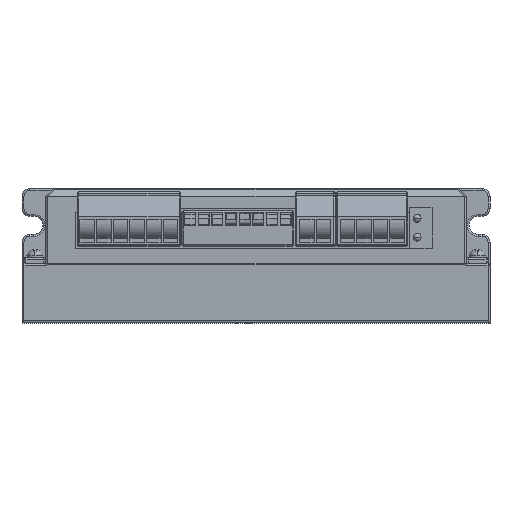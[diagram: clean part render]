
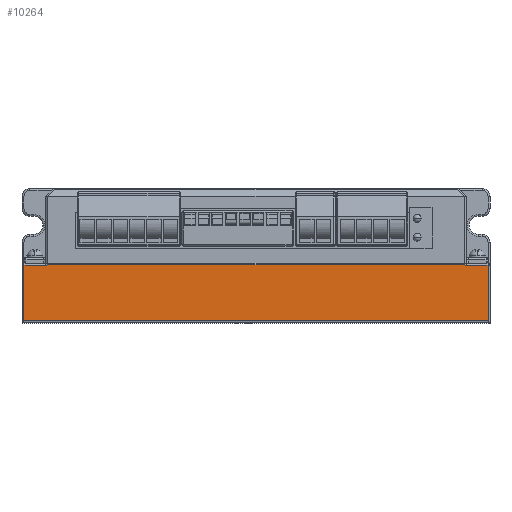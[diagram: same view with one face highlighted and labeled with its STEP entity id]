
A CAD part, top view. The second image highlights one B-rep face of the part: STEP entity #10264.
In plain terms, the highlighted planar face has unit normal (0, 0, 1).
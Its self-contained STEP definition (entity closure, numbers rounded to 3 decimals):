
#10264 = ADVANCED_FACE('',(#10265),#10345,.T.);
#10265 = FACE_BOUND('',#10266,.T.);
#10266 = EDGE_LOOP('',(#10267,#10277,#10285,#10300,#10308,#10323,#10331,
    #10339));
#10267 = ORIENTED_EDGE('',*,*,#10268,.T.);
#10268 = EDGE_CURVE('',#10269,#10271,#10273,.T.);
#10269 = VERTEX_POINT('',#10270);
#10270 = CARTESIAN_POINT('',(58.5,0.5,75.5));
#10271 = VERTEX_POINT('',#10272);
#10272 = CARTESIAN_POINT('',(58.5,14.5,75.5));
#10273 = LINE('',#10274,#10275);
#10274 = CARTESIAN_POINT('',(58.5,15.,75.5));
#10275 = VECTOR('',#10276,1.);
#10276 = DIRECTION('',(0.,1.,-0.));
#10277 = ORIENTED_EDGE('',*,*,#10278,.T.);
#10278 = EDGE_CURVE('',#10271,#10279,#10281,.T.);
#10279 = VERTEX_POINT('',#10280);
#10280 = CARTESIAN_POINT('',(52.99,14.5,75.5));
#10281 = LINE('',#10282,#10283);
#10282 = CARTESIAN_POINT('',(-58.5,14.5,75.5));
#10283 = VECTOR('',#10284,1.);
#10284 = DIRECTION('',(-1.,0.,0.));
#10285 = ORIENTED_EDGE('',*,*,#10286,.T.);
#10286 = EDGE_CURVE('',#10279,#10287,#10289,.T.);
#10287 = VERTEX_POINT('',#10288);
#10288 = CARTESIAN_POINT('',(52.5,14.7,75.5));
#10289 = B_SPLINE_CURVE_WITH_KNOTS('',3,(#10290,#10291,#10292,#10293,
    #10294,#10295,#10296,#10297,#10298,#10299),.UNSPECIFIED.,.F.,.F.,(4,
    2,2,2,4),(0.,0.,0.,0.
    ,0.001),.UNSPECIFIED.);
#10290 = CARTESIAN_POINT('',(52.99,14.5,75.5));
#10291 = CARTESIAN_POINT('',(52.899,14.5,75.5));
#10292 = CARTESIAN_POINT('',(52.811,14.524,75.5));
#10293 = CARTESIAN_POINT('',(52.692,14.587,75.5));
#10294 = CARTESIAN_POINT('',(52.655,14.612,75.5));
#10295 = CARTESIAN_POINT('',(52.6,14.652,75.5));
#10296 = CARTESIAN_POINT('',(52.582,14.665,75.5));
#10297 = CARTESIAN_POINT('',(52.544,14.689,75.5));
#10298 = CARTESIAN_POINT('',(52.523,14.7,75.5));
#10299 = CARTESIAN_POINT('',(52.5,14.7,75.5));
#10300 = ORIENTED_EDGE('',*,*,#10301,.T.);
#10301 = EDGE_CURVE('',#10287,#10302,#10304,.T.);
#10302 = VERTEX_POINT('',#10303);
#10303 = CARTESIAN_POINT('',(-52.5,14.7,75.5));
#10304 = LINE('',#10305,#10306);
#10305 = CARTESIAN_POINT('',(-58.5,14.7,75.5));
#10306 = VECTOR('',#10307,1.);
#10307 = DIRECTION('',(-1.,0.,-0.));
#10308 = ORIENTED_EDGE('',*,*,#10309,.T.);
#10309 = EDGE_CURVE('',#10302,#10310,#10312,.T.);
#10310 = VERTEX_POINT('',#10311);
#10311 = CARTESIAN_POINT('',(-52.99,14.5,75.5));
#10312 = B_SPLINE_CURVE_WITH_KNOTS('',3,(#10313,#10314,#10315,#10316,
    #10317,#10318,#10319,#10320,#10321,#10322),.UNSPECIFIED.,.F.,.F.,(4,
    2,2,2,4),(0.,0.,0.,
    0.,0.001),.UNSPECIFIED.);
#10313 = CARTESIAN_POINT('',(-52.5,14.7,75.5));
#10314 = CARTESIAN_POINT('',(-52.523,14.7,75.5));
#10315 = CARTESIAN_POINT('',(-52.545,14.689,75.5));
#10316 = CARTESIAN_POINT('',(-52.582,14.665,75.5));
#10317 = CARTESIAN_POINT('',(-52.6,14.651,75.5));
#10318 = CARTESIAN_POINT('',(-52.655,14.611,75.5));
#10319 = CARTESIAN_POINT('',(-52.692,14.586,75.5));
#10320 = CARTESIAN_POINT('',(-52.811,14.524,75.5));
#10321 = CARTESIAN_POINT('',(-52.9,14.5,75.5));
#10322 = CARTESIAN_POINT('',(-52.99,14.5,75.5));
#10323 = ORIENTED_EDGE('',*,*,#10324,.T.);
#10324 = EDGE_CURVE('',#10310,#10325,#10327,.T.);
#10325 = VERTEX_POINT('',#10326);
#10326 = CARTESIAN_POINT('',(-58.5,14.5,75.5));
#10327 = LINE('',#10328,#10329);
#10328 = CARTESIAN_POINT('',(-58.5,14.5,75.5));
#10329 = VECTOR('',#10330,1.);
#10330 = DIRECTION('',(-1.,0.,0.));
#10331 = ORIENTED_EDGE('',*,*,#10332,.T.);
#10332 = EDGE_CURVE('',#10325,#10333,#10335,.T.);
#10333 = VERTEX_POINT('',#10334);
#10334 = CARTESIAN_POINT('',(-58.5,0.5,75.5));
#10335 = LINE('',#10336,#10337);
#10336 = CARTESIAN_POINT('',(-58.5,0.,75.5));
#10337 = VECTOR('',#10338,1.);
#10338 = DIRECTION('',(0.,-1.,0.));
#10339 = ORIENTED_EDGE('',*,*,#10340,.T.);
#10340 = EDGE_CURVE('',#10333,#10269,#10341,.T.);
#10341 = LINE('',#10342,#10343);
#10342 = CARTESIAN_POINT('',(59.,0.5,75.5));
#10343 = VECTOR('',#10344,1.);
#10344 = DIRECTION('',(1.,-0.,0.));
#10345 = PLANE('',#10346);
#10346 = AXIS2_PLACEMENT_3D('',#10347,#10348,#10349);
#10347 = CARTESIAN_POINT('',(0.,0.,75.5));
#10348 = DIRECTION('',(0.,0.,1.));
#10349 = DIRECTION('',(1.,0.,-0.));
